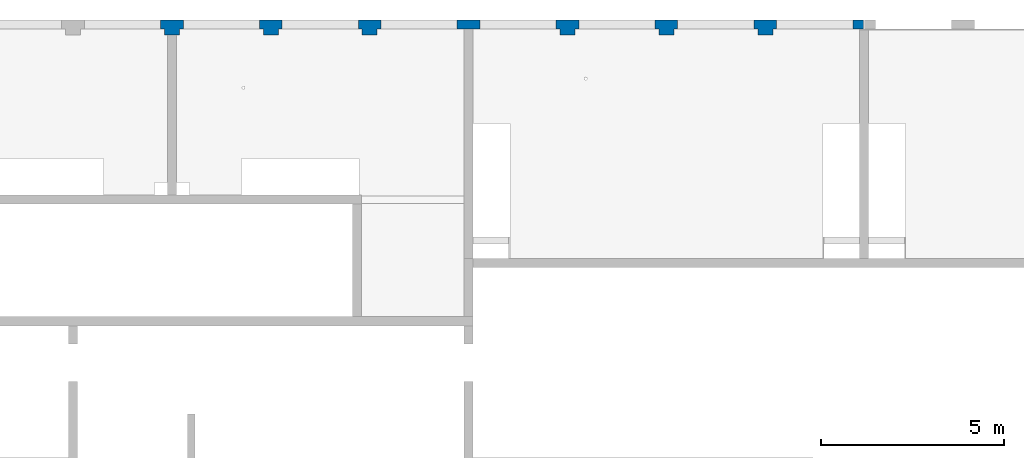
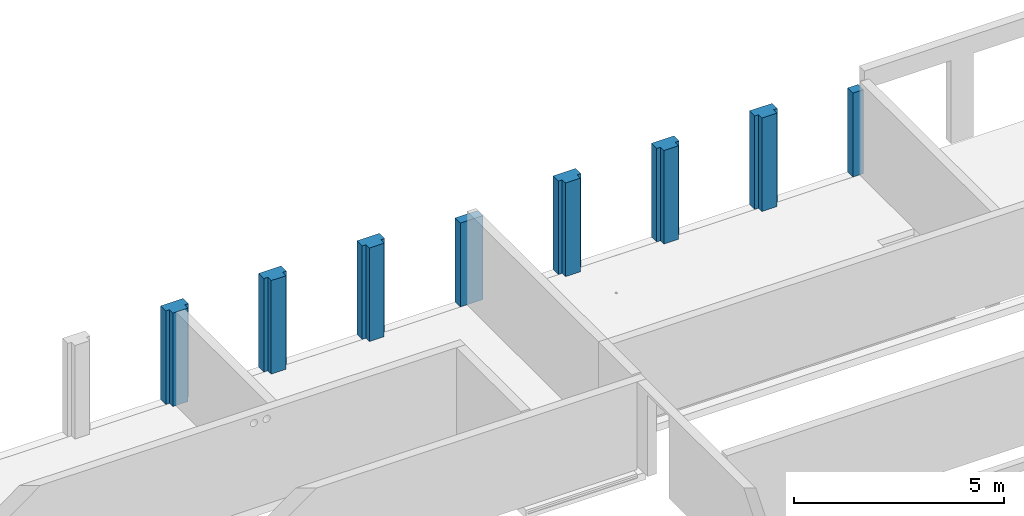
# One storey, part 3 of 18: 8 columns.
"""IFC2X3 building model written with IfcOpenShell, lengths in millimetres."""

from ifc_helpers import new_model, entity, si_unit, converted_unit, derived_unit, direction, frame, frame_2d, origin, place, context, subcontext, project, spatial, polyline, rectangle, outline, extrude, source, transform, mapped, material, type_object, type_shapes, element, save


model = new_model("IFC2X3")

# Units and contexts
model_context = context("Model", 3, precision=0.01, world=origin(), true_north=direction((6.12303176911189e-17, 1.0)))
body_context = subcontext(model_context, "Body", "Model", "MODEL_VIEW")
ifc_project = project(units=[si_unit("LENGTHUNIT", "METRE", prefix="MILLI"), si_unit("AREAUNIT", "SQUARE_METRE"), si_unit("VOLUMEUNIT", "CUBIC_METRE"), converted_unit("PLANEANGLEUNIT", "DEGREE", entity("IfcRatioMeasure", 0.0174532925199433), si_unit("PLANEANGLEUNIT", "RADIAN"), dimensions=[0, 0, 0, 0, 0, 0, 0]), si_unit("MASSUNIT", "GRAM", prefix="KILO"), derived_unit("MASSDENSITYUNIT", [(si_unit("MASSUNIT", "GRAM", prefix="KILO"), 1), (si_unit("LENGTHUNIT", "METRE"), -3)]), si_unit("TIMEUNIT", "SECOND"), si_unit("FREQUENCYUNIT", "HERTZ"), si_unit("THERMODYNAMICTEMPERATUREUNIT", "DEGREE_CELSIUS"), derived_unit("THERMALTRANSMITTANCEUNIT", [(si_unit("MASSUNIT", "GRAM", prefix="KILO"), 1), (si_unit("THERMODYNAMICTEMPERATUREUNIT", "KELVIN"), -1), (si_unit("TIMEUNIT", "SECOND"), -3)]), derived_unit("VOLUMETRICFLOWRATEUNIT", [(si_unit("LENGTHUNIT", "METRE"), 3), (si_unit("TIMEUNIT", "SECOND"), -1)]), si_unit("ELECTRICCURRENTUNIT", "AMPERE"), si_unit("ELECTRICVOLTAGEUNIT", "VOLT"), si_unit("POWERUNIT", "WATT"), si_unit("FORCEUNIT", "NEWTON", prefix="KILO"), si_unit("ILLUMINANCEUNIT", "LUX"), si_unit("LUMINOUSFLUXUNIT", "LUMEN"), si_unit("LUMINOUSINTENSITYUNIT", "CANDELA"), derived_unit("USERDEFINED", [(si_unit("MASSUNIT", "GRAM", prefix="KILO"), -1), (si_unit("LENGTHUNIT", "METRE"), -2), (si_unit("TIMEUNIT", "SECOND"), 3), (si_unit("LUMINOUSFLUXUNIT", "LUMEN"), 1)]), derived_unit("LINEARVELOCITYUNIT", [(si_unit("LENGTHUNIT", "METRE"), 1), (si_unit("TIMEUNIT", "SECOND"), -1)]), si_unit("PRESSUREUNIT", "PASCAL"), derived_unit("USERDEFINED", [(si_unit("LENGTHUNIT", "METRE"), -2), (si_unit("MASSUNIT", "GRAM", prefix="KILO"), 1), (si_unit("TIMEUNIT", "SECOND"), -2)])], contexts=[model_context])

# Site, building, storey
site_placement = place(None, origin())
site = spatial("IfcSite", under=ifc_project, at=site_placement, Name="Default", CompositionType="ELEMENT")
building_placement = place(site_placement, origin())
building = spatial("IfcBuilding", under=site, at=building_placement, Name="niet gebruiken", CompositionType="ELEMENT")
storey_placement = place(building_placement, frame((0.0, 0.0, 3690.0)))
storey = spatial("IfcBuildingStorey", under=building, at=storey_placement, Name="01 eerste verdieping", CompositionType="ELEMENT", Elevation=3690.00000000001)

# Columns
ifc_material = material(Name="NLRS_f2_beton ihwg")
column_type_1 = type_object("IfcColumnType", Name="620x410/105x160/105x160", PredefinedType="COLUMN", material=ifc_material)
shared_shape_1 = source(origin(), body_context, "Body", "SweptSolid", [
    extrude(outline(polyline([(-227.5, -310.0), (22.4999999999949, -310.0), (22.4999999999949, -205.0), (182.499999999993, -205.0), (182.499999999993, 205.0), (22.4999999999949, 205.0), (22.4999999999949, 310.0), (-227.5, 310.0), (-227.5, -310.0)])), frame((102600.0, 53028.4999999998, 3600.0), z_axis=(0.0, 0.0, 1.0), x_axis=(0.0, -1.0, 0.0)), (0.0, 0.0, 1.0), 2719.99999999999),
])
type_shapes(column_type_1, [shared_shape_1])
column_1_placement = place(storey_placement, frame((0.0, 0.0, -3690.0)))
element("IfcColumn", 1, at=column_1_placement, inside=storey, type_object=column_type_1, material=ifc_material, Name="NLRS_28.11_SCO_TLB_beton kolom ihwg dubbele sponning_gen:620x410/105x160/105x160", ObjectType="620x410/105x160/105x160", context=body_context, shape_type="MappedRepresentation", body=[
    mapped(shared_shape_1, transform((0.0, 0.0, 0.0), scale=1.0)),
])
column_type_2 = type_object("IfcColumnType", Name="620x410/105x160/105x160", PredefinedType="COLUMN", material=ifc_material)
shared_shape_2 = source(origin(), body_context, "Body", "SweptSolid", [
    extrude(outline(polyline([(-227.499999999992, -310.0), (22.5000000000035, -310.0), (22.5000000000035, -205.0), (182.500000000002, -205.0), (182.500000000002, 205.0), (22.5000000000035, 205.0), (22.5000000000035, 310.0), (-227.499999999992, 310.0), (-227.499999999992, -310.0)])), frame((99900.0, 53028.4999999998, 3600.0), z_axis=(0.0, 0.0, 1.0), x_axis=(0.0, -1.0, 0.0)), (0.0, 0.0, 1.0), 2719.99999999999),
])
type_shapes(column_type_2, [shared_shape_2])
column_2_placement = place(storey_placement, frame((0.0, 0.0, -3690.0)))
element("IfcColumn", 2, at=column_2_placement, inside=storey, type_object=column_type_2, material=ifc_material, Name="NLRS_28.11_SCO_TLB_beton kolom ihwg dubbele sponning_gen:620x410/105x160/105x160", ObjectType="620x410/105x160/105x160", context=body_context, shape_type="MappedRepresentation", body=[
    mapped(shared_shape_2, transform((0.0, 0.0, 0.0), scale=1.0)),
])
column_type_3 = type_object("IfcColumnType", Name="620x410/105x160/105x160", PredefinedType="COLUMN", material=ifc_material)
shared_shape_3 = source(origin(), body_context, "Body", "SweptSolid", [
    extrude(outline(polyline([(-227.499999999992, -310.0), (22.5000000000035, -310.0), (22.5000000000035, -205.0), (182.500000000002, -205.0), (182.500000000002, 205.0), (22.5000000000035, 205.0), (22.5000000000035, 310.0), (-227.499999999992, 310.0), (-227.499999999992, -310.0)])), frame((94500.0, 53028.4999999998, 3600.0), z_axis=(0.0, 0.0, 1.0), x_axis=(0.0, -1.0, 0.0)), (0.0, 0.0, 1.0), 2719.99999999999),
])
type_shapes(column_type_3, [shared_shape_3])
column_3_placement = place(storey_placement, frame((0.0, 0.0, -3690.0)))
element("IfcColumn", 3, at=column_3_placement, inside=storey, type_object=column_type_3, material=ifc_material, Name="NLRS_28.11_SCO_TLB_beton kolom ihwg dubbele sponning_gen:620x410/105x160/105x160", ObjectType="620x410/105x160/105x160", context=body_context, shape_type="MappedRepresentation", body=[
    mapped(shared_shape_3, transform((0.0, 0.0, 0.0), scale=1.0)),
])
column_type_4 = type_object("IfcColumnType", Name="620x410/105x160/105x160", PredefinedType="COLUMN", material=ifc_material)
shared_shape_4 = source(origin(), body_context, "Body", "SweptSolid", [
    extrude(outline(polyline([(-227.499999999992, -310.0), (22.5000000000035, -310.0), (22.5000000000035, -205.0), (182.500000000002, -205.0), (182.500000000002, 205.0), (22.5000000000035, 205.0), (22.5000000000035, 310.0), (-227.499999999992, 310.0), (-227.499999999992, -310.0)])), frame((91800.0, 53028.4999999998, 3600.0), z_axis=(0.0, 0.0, 1.0), x_axis=(0.0, -1.0, 0.0)), (0.0, 0.0, 1.0), 2719.99999999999),
])
type_shapes(column_type_4, [shared_shape_4])
column_4_placement = place(storey_placement, frame((0.0, 0.0, -3690.0)))
element("IfcColumn", 4, at=column_4_placement, inside=storey, type_object=column_type_4, material=ifc_material, Name="NLRS_28.11_SCO_TLB_beton kolom ihwg dubbele sponning_gen:620x410/105x160/105x160", ObjectType="620x410/105x160/105x160", context=body_context, shape_type="MappedRepresentation", body=[
    mapped(shared_shape_4, transform((0.0, 0.0, 0.0), scale=1.0)),
])
column_type_5 = type_object("IfcColumnType", Name="620x410/105x160/105x160", PredefinedType="COLUMN", material=ifc_material)
shared_shape_5 = source(origin(), body_context, "Body", "SweptSolid", [
    extrude(outline(polyline([(-227.499999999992, -310.0), (22.5000000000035, -310.0), (22.5000000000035, -205.0), (182.500000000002, -205.0), (182.500000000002, 205.0), (22.5000000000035, 205.0), (22.5000000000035, 310.0), (-227.499999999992, 310.0), (-227.499999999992, -310.0)])), frame((89100.0, 53028.4999999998, 3600.0), z_axis=(0.0, 0.0, 1.0), x_axis=(0.0, -1.0, 0.0)), (0.0, 0.0, 1.0), 2720.0),
])
type_shapes(column_type_5, [shared_shape_5])
column_5_placement = place(storey_placement, frame((0.0, 0.0, -3690.0)))
element("IfcColumn", 5, at=column_5_placement, inside=storey, type_object=column_type_5, material=ifc_material, Name="NLRS_28.11_SCO_TLB_beton kolom ihwg dubbele sponning_gen:620x410/105x160/105x160", ObjectType="620x410/105x160/105x160", context=body_context, shape_type="MappedRepresentation", body=[
    mapped(shared_shape_5, transform((0.0, 0.0, 0.0), scale=1.0)),
])
column_type_6 = type_object("IfcColumnType", Name="620x250", PredefinedType="COLUMN", material=ifc_material)
shared_shape_6 = source(origin(), body_context, "Body", "SweptSolid", [
    extrude(rectangle(XDim=250.000000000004, YDim=619.999999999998, at=frame_2d((8.66151594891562e-12, 0.0), x_axis=(1.0, 0.0))), frame((97200.0, 53131.0, 3600.0), z_axis=(0.0, 0.0, 1.0), x_axis=(0.0, -1.0, 0.0)), (0.0, 0.0, 1.0), 2440.0),
])
type_shapes(column_type_6, [shared_shape_6])
column_6_placement = place(storey_placement, frame((0.0, 0.0, -3690.0)))
element("IfcColumn", 6, at=column_6_placement, inside=storey, type_object=column_type_6, material=ifc_material, Name="NLRS_28.11_SCO_TLB_beton kolom ihwg_gen:620x250", ObjectType="620x250", context=body_context, shape_type="MappedRepresentation", body=[
    mapped(shared_shape_6, transform((0.0, 0.0, 0.0), scale=1.0)),
])
column_type_7 = type_object("IfcColumnType", Name="620x410/105x160/105x160", PredefinedType="COLUMN", material=ifc_material)
shared_shape_7 = source(origin(), body_context, "Body", "SweptSolid", [
    extrude(outline(polyline([(-227.5, -310.0), (22.4999999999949, -310.0), (22.4999999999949, -205.0), (182.499999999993, -205.0), (182.499999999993, 205.0), (22.4999999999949, 205.0), (22.4999999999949, 310.0), (-227.5, 310.0), (-227.5, -310.0)])), frame((105300.0, 53028.4999999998, 3600.0), z_axis=(0.0, 0.0, 1.0), x_axis=(0.0, -1.0, 0.0)), (0.0, 0.0, 1.0), 2719.99999999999),
])
type_shapes(column_type_7, [shared_shape_7])
column_7_placement = place(storey_placement, frame((0.0, 0.0, -3690.0)))
element("IfcColumn", 7, at=column_7_placement, inside=storey, type_object=column_type_7, material=ifc_material, Name="NLRS_28.11_SCO_TLB_beton kolom ihwg dubbele sponning_gen:620x410/105x160/105x160", ObjectType="620x410/105x160/105x160", context=body_context, shape_type="MappedRepresentation", body=[
    mapped(shared_shape_7, transform((0.0, 0.0, 0.0), scale=1.0)),
])
column_type_8 = type_object("IfcColumnType", Name="290x250", PredefinedType="COLUMN", material=ifc_material)
shared_shape_8 = source(origin(), body_context, "Body", "SweptSolid", [
    extrude(rectangle(XDim=250.000000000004, YDim=290.000000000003, at=frame_2d((-8.66151594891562e-12, 0.0), x_axis=(1.0, 0.0))), frame((107835.0, 53131.0, 3600.0), z_axis=(0.0, 0.0, 1.0), x_axis=(0.0, -1.0, 0.0)), (0.0, 0.0, 1.0), 2440.0),
])
type_shapes(column_type_8, [shared_shape_8])
column_8_placement = place(storey_placement, frame((0.0, 0.0, -3690.0)))
element("IfcColumn", 8, at=column_8_placement, inside=storey, type_object=column_type_8, material=ifc_material, Name="NLRS_28.11_SCO_TLB_beton kolom ihwg_gen:290x250", ObjectType="290x250", context=body_context, shape_type="MappedRepresentation", body=[
    mapped(shared_shape_8, transform((0.0, 0.0, 0.0), scale=1.0)),
])

save(model, "model.ifc")
